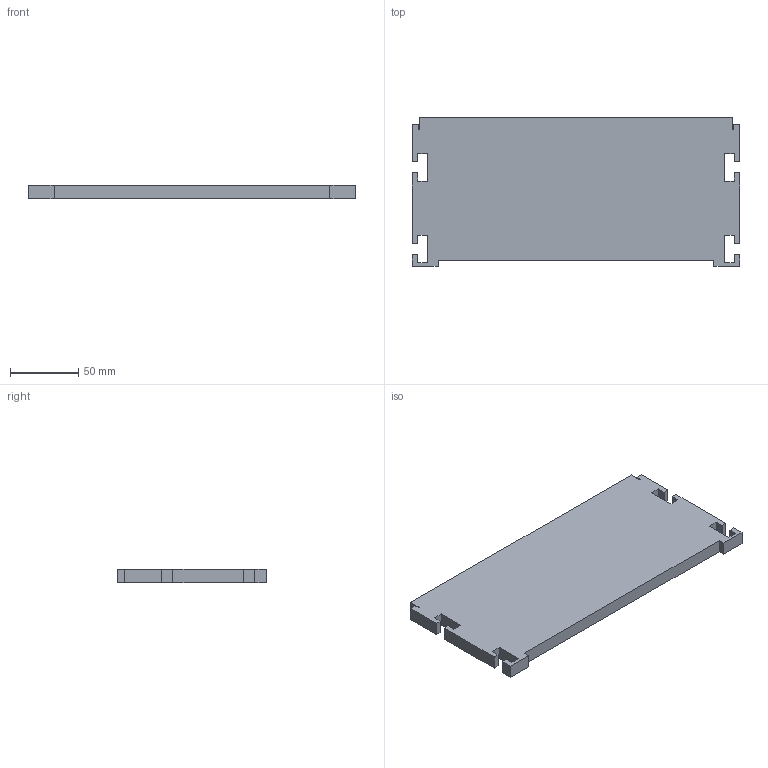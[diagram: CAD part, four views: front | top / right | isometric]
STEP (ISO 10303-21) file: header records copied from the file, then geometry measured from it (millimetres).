
FILE_DESCRIPTION (( 'STEP AP214' ), '1' );
FILE_NAME ('240 baan.STEP', '2017-02-08T12:29:24', ( '' ), ( '' ), 'SwSTEP 2.0', 'SolidWorks 2016', '' );
FILE_SCHEMA (( 'AUTOMOTIVE_DESIGN' ));
Length unit declared in the file: millimetre
Products named in the file (1): 240 baan
Bounding box: 240 x 109 x 10 mm (x, y, z)
Volume: 244553.6 mm3; surface area: 57998.7 mm2
Topology: 1 solids, 1 shells, 54 faces, 156 edges, 104 vertices
Faces by surface type: plane 54
Entity records: 1774 total; most frequent: CARTESIAN_POINT 315, ORIENTED_EDGE 312, DIRECTION 266, EDGE_CURVE 156, VECTOR 156, LINE 156, VERTEX_POINT 104, AXIS2_PLACEMENT_3D 55
